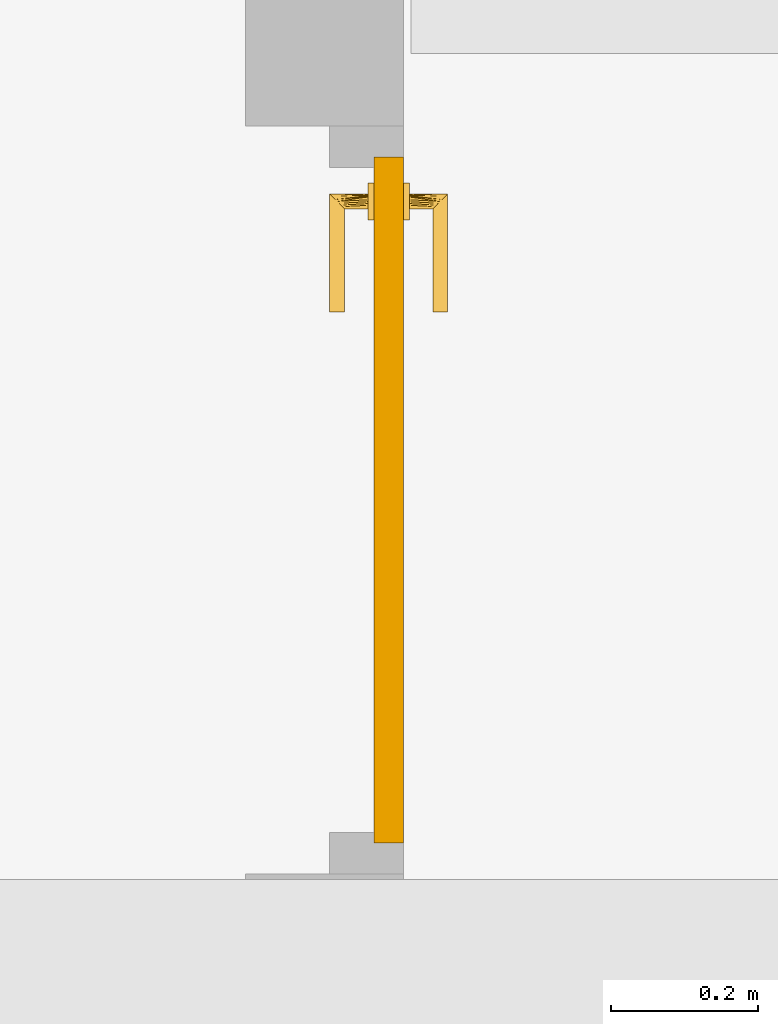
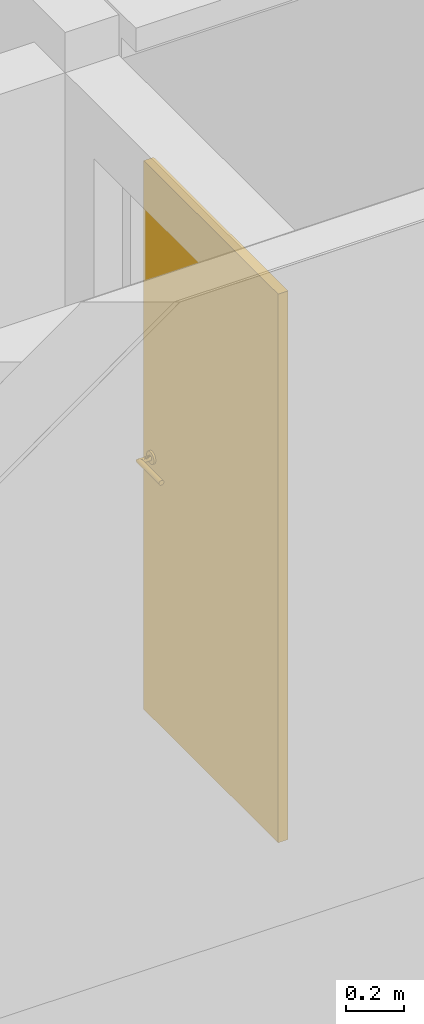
# One storey, part 91 of 117: 1 door.
"""IFC2X3 building model written with IfcOpenShell, lengths in millimetres."""

from ifc_helpers import new_model, entity, si_unit, converted_unit, derived_unit, money_unit, direction, frame, origin_with_axes, place, context, subcontext, project, spatial, faceted_brep, source, transform, mapped, material, type_object, type_shapes, element, save


model = new_model("IFC2X3")

# Units and contexts
model_context = context("Model", 3, precision=0.01, world=origin_with_axes(), true_north=direction((0.0, 1.0)))
body_context = subcontext(model_context, "Body", "Model", "MODEL_VIEW")
ifc_project = project(units=[si_unit("LENGTHUNIT", "METRE", prefix="MILLI"), si_unit("AREAUNIT", "SQUARE_METRE"), si_unit("VOLUMEUNIT", "CUBIC_METRE"), converted_unit("PLANEANGLEUNIT", "DEGREE", entity("IfcPlaneAngleMeasure", 0.0174532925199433), si_unit("PLANEANGLEUNIT", "RADIAN"), dimensions=[0, 0, 0, 0, 0, 0, 0]), money_unit("EUR"), converted_unit("TIMEUNIT", "Year", entity("IfcTimeMeasure", 31557600.0), si_unit("TIMEUNIT", "SECOND"), dimensions=[0, 0, 1, 0, 0, 0, 0]), si_unit("MASSUNIT", "GRAM", prefix="KILO"), si_unit("THERMODYNAMICTEMPERATUREUNIT", "DEGREE_CELSIUS"), si_unit("LUMINOUSINTENSITYUNIT", "LUMEN"), si_unit("ENERGYUNIT", "JOULE", prefix="MEGA"), derived_unit("THERMALCONDUCTANCEUNIT", [(si_unit("POWERUNIT", "WATT"), 1), (si_unit("LENGTHUNIT", "METRE"), -1), (si_unit("THERMODYNAMICTEMPERATUREUNIT", "KELVIN"), -1)]), derived_unit("SPECIFICHEATCAPACITYUNIT", [(si_unit("ENERGYUNIT", "JOULE"), 1), (si_unit("MASSUNIT", "GRAM", prefix="KILO"), -1), (si_unit("THERMODYNAMICTEMPERATUREUNIT", "KELVIN"), -1)]), derived_unit("MASSDENSITYUNIT", [(si_unit("MASSUNIT", "GRAM", prefix="KILO"), 1), (si_unit("VOLUMEUNIT", "CUBIC_METRE"), -1)])], contexts=[model_context])

# Site, building, storey
site_placement = place(None, origin_with_axes())
site = spatial("IfcSite", under=ifc_project, at=site_placement, Name="Site", CompositionType="ELEMENT")
building_placement = place(site_placement, origin_with_axes())
building = spatial("IfcBuilding", under=site, at=building_placement, Name="Naam gebouw", CompositionType="ELEMENT")
storey_placement = place(building_placement, frame((0.0, 0.0, 4150.0), z_axis=(0.0, 0.0, 1.0), x_axis=(1.0, 0.0, 0.0)))
storey = spatial("IfcBuildingStorey", under=building, at=storey_placement, Name="1e verdieping N", CompositionType="ELEMENT", Elevation=4150.0)

# Door
ifc_material = material(Name="<Unnamed>")
door_style = type_object("IfcDoorStyle", Name="NLRS_32_deur stomp dicht_WID:Deur", ConstructionType="NOTDEFINED", OperationType="NOTDEFINED", ParameterTakesPrecedence=False, Sizeable=False)
shared_shape = source(origin_with_axes(), body_context, "Body", "Brep", [
    faceted_brep([(417.5000000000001, -65.96445239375, 1078.34936490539), (407.58819045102, -65.96445239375, 1090.34074173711), (410.0000000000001, -65.96445239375, 1091.33974596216), (411.4704761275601, -65.96445239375, 1075.85185434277), (410.0000000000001, -74.00000000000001, 1091.33974596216), (407.58819045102, -74.00000000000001, 1090.34074173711), (422.6776695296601, -65.96445239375, 1082.32233047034), (411.4704761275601, -74.00000000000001, 1075.85185434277), (417.5000000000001, -74.00000000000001, 1078.34936490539), (405.0, -65.96445239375, 1090.0), (412.0710678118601, -74.00000000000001, 1092.92893218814), (412.0710678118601, -65.96445239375, 1092.92893218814), (405.0, -74.00000000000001, 1090.0), (422.6776695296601, -74.00000000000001, 1082.32233047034), (405.0, -74.00000000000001, 1075.0), (405.0, -65.96445239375, 1075.0), (413.66025403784, -65.96445239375, 1095.0), (413.66025403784, -74.00000000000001, 1095.0), (402.41180954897, -74.00000000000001, 1090.34074173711), (402.41180954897, -65.96445239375, 1090.34074173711), (426.6506350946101, -65.96445239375, 1087.5), (426.6506350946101, -74.00000000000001, 1087.5), (398.52952387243, -74.00000000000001, 1075.85185434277), (398.52952387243, -65.96445239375, 1075.85185434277), (414.65925826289, -74.00000000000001, 1097.41180954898), (414.65925826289, -65.96445239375, 1097.41180954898), (400.0, -65.96445239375, 1091.33974596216), (400.0, -74.00000000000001, 1091.33974596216), (429.14814565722, -74.00000000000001, 1093.52952387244), (429.14814565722, -65.96445239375, 1093.52952387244), (392.5, -74.00000000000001, 1078.34936490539), (392.5, -65.96445239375, 1078.34936490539), (415.0000000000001, -74.00000000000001, 1100.0), (415.0000000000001, -65.96445239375, 1100.0), (397.92893218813, -65.96445239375, 1092.92893218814), (397.92893218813, -74.00000000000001, 1092.92893218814), (430.0000000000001, -65.96445239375, 1100.0), (430.0000000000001, -74.00000000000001, 1100.0), (387.32233047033, -74.00000000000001, 1082.32233047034), (387.32233047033, -65.96445239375, 1082.32233047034), (414.65925826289, -74.00000000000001, 1102.58819045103), (414.65925826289, -65.96445239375, 1102.58819045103), (396.3397459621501, -65.96445239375, 1095.0), (396.3397459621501, -74.00000000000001, 1095.0), (429.14814565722, -65.96445239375, 1106.47047612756), (429.14814565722, -74.00000000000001, 1106.47047612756), (383.3493649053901, -74.00000000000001, 1087.5), (383.3493649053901, -65.96445239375, 1087.5), (413.66025403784, -74.00000000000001, 1105.0), (413.66025403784, -65.96445239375, 1105.0), (395.34074173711, -65.96445239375, 1097.41180954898), (395.34074173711, -74.00000000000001, 1097.41180954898), (426.6506350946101, -65.96445239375, 1112.5), (426.6506350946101, -74.00000000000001, 1112.5), (380.8518543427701, -74.00000000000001, 1093.52952387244), (380.8518543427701, -65.96445239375, 1093.52952387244), (412.0710678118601, -65.96445239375, 1107.07106781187), (412.0710678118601, -74.00000000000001, 1107.07106781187), (395.0, -65.96445239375, 1100.0), (395.0, -74.00000000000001, 1100.0), (422.6776695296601, -65.96445239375, 1117.67766952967), (422.6776695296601, -74.00000000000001, 1117.67766952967), (380.0000000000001, -74.00000000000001, 1100.0), (380.0000000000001, -65.96445239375, 1100.0), (410.0000000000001, -74.00000000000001, 1108.66025403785), (410.0000000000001, -65.96445239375, 1108.66025403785), (395.34074173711, -65.96445239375, 1102.58819045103), (395.34074173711, -74.00000000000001, 1102.58819045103), (417.5000000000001, -74.00000000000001, 1121.65063509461), (417.5000000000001, -65.96445239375, 1121.65063509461), (380.8518543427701, -74.00000000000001, 1106.47047612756), (380.8518543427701, -65.96445239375, 1106.47047612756), (407.58819045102, -74.00000000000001, 1109.65925826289), (407.58819045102, -65.96445239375, 1109.65925826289), (396.3397459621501, -65.96445239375, 1105.0), (396.3397459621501, -74.00000000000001, 1105.0), (411.4704761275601, -74.00000000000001, 1124.14814565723), (411.4704761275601, -65.96445239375, 1124.14814565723), (383.3493649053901, -74.00000000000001, 1112.5), (383.3493649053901, -65.96445239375, 1112.5), (405.0, -74.00000000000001, 1110.0), (405.0, -65.96445239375, 1110.0), (397.92893218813, -65.96445239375, 1107.07106781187), (397.92893218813, -74.00000000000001, 1107.07106781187), (405.0, -65.96445239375, 1125.0), (405.0, -74.00000000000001, 1125.0), (387.32233047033, -74.00000000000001, 1117.67766952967), (387.32233047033, -65.96445239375, 1117.67766952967), (402.41180954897, -74.00000000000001, 1109.65925826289), (402.41180954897, -65.96445239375, 1109.65925826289), (400.0, -65.96445239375, 1108.66025403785), (400.0, -74.00000000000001, 1108.66025403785), (398.52952387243, -65.96445239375, 1124.14814565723), (398.52952387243, -74.00000000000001, 1124.14814565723), (392.5, -74.00000000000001, 1121.65063509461), (392.5, -65.96445239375, 1121.65063509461)], [[[0, 1, 2]], [[0, 3, 1]], [[4, 2, 1, 5]], [[0, 2, 6]], [[7, 3, 0, 8]], [[9, 1, 3]], [[10, 11, 2, 4]], [[5, 1, 9, 12]], [[5, 8, 4]], [[11, 6, 2]], [[6, 13, 8, 0]], [[14, 15, 3, 7]], [[8, 5, 7]], [[15, 9, 3]], [[16, 11, 10, 17]], [[10, 4, 13]], [[18, 12, 9, 19]], [[12, 7, 5]], [[4, 8, 13]], [[11, 20, 6]], [[21, 13, 6, 20]], [[22, 23, 15, 14]], [[14, 7, 12]], [[9, 15, 19]], [[16, 20, 11]], [[17, 10, 21]], [[16, 17, 24, 25]], [[21, 10, 13]], [[12, 18, 14]], [[26, 27, 18, 19]], [[28, 21, 20, 29]], [[22, 30, 31, 23]], [[23, 19, 15]], [[22, 14, 18]], [[20, 16, 25]], [[28, 17, 21]], [[17, 28, 24]], [[25, 24, 32, 33]], [[34, 35, 27, 26]], [[27, 22, 18]], [[23, 26, 19]], [[20, 25, 29]], [[28, 29, 36, 37]], [[27, 30, 22]], [[30, 38, 39, 31]], [[26, 23, 31]], [[24, 28, 37]], [[37, 32, 24]], [[40, 41, 33, 32]], [[25, 33, 29]], [[34, 42, 43, 35]], [[30, 27, 35]], [[26, 31, 34]], [[36, 29, 33]], [[37, 36, 44, 45]], [[38, 30, 35]], [[39, 38, 46, 47]], [[39, 34, 31]], [[37, 45, 32]], [[48, 49, 41, 40]], [[36, 33, 41]], [[40, 32, 45]], [[34, 39, 42]], [[43, 42, 50, 51]], [[35, 43, 38]], [[41, 44, 36]], [[45, 44, 52, 53]], [[43, 46, 38]], [[54, 55, 47, 46]], [[42, 39, 47]], [[56, 49, 48, 57]], [[49, 44, 41]], [[53, 48, 40]], [[53, 40, 45]], [[42, 47, 50]], [[51, 50, 58, 59]], [[43, 51, 54]], [[44, 49, 52]], [[60, 61, 53, 52]], [[46, 43, 54]], [[62, 63, 55, 54]], [[50, 47, 55]], [[49, 56, 52]], [[48, 53, 57]], [[56, 57, 64, 65]], [[58, 50, 55]], [[66, 67, 59, 58]], [[51, 59, 62]], [[54, 51, 62]], [[68, 61, 60, 69]], [[57, 53, 61]], [[52, 56, 60]], [[70, 71, 63, 62]], [[63, 58, 55]], [[57, 61, 64]], [[65, 64, 72, 73]], [[56, 65, 60]], [[74, 75, 67, 66]], [[59, 67, 70]], [[66, 58, 63]], [[62, 59, 70]], [[68, 64, 61]], [[65, 69, 60]], [[76, 68, 69, 77]], [[70, 78, 79, 71]], [[71, 66, 63]], [[68, 72, 64]], [[72, 80, 81, 73]], [[73, 69, 65]], [[74, 82, 83, 75]], [[75, 78, 67]], [[74, 66, 71]], [[67, 78, 70]], [[68, 76, 72]], [[69, 73, 77]], [[76, 77, 84, 85]], [[78, 86, 87, 79]], [[79, 74, 71]], [[80, 72, 76]], [[88, 89, 81, 80]], [[81, 77, 73]], [[82, 74, 87]], [[83, 82, 90, 91]], [[83, 86, 75]], [[75, 86, 78]], [[84, 77, 81]], [[85, 84, 92, 93]], [[85, 80, 76]], [[87, 86, 94, 95]], [[74, 79, 87]], [[91, 90, 89, 88]], [[81, 89, 84]], [[80, 85, 88]], [[87, 95, 82]], [[95, 90, 82]], [[91, 94, 83]], [[86, 83, 94]], [[92, 84, 89]], [[93, 92, 95, 94]], [[93, 88, 85]], [[90, 92, 89]], [[93, 91, 88]], [[90, 95, 92]], [[91, 93, 94]]]),
    faceted_brep([(405.0, -74.00000000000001, 1090.0), (407.58819045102, -74.00000000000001, 1090.34074173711), (410.0000000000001, -74.00000000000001, 1091.33974596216), (412.0710678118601, -74.00000000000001, 1092.92893218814), (413.66025403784, -74.00000000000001, 1095.0), (414.65925826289, -74.00000000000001, 1097.41180954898), (415.0000000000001, -74.00000000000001, 1100.0), (414.65925826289, -74.00000000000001, 1102.58819045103), (413.66025403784, -74.00000000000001, 1105.0), (412.0710678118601, -74.00000000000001, 1107.07106781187), (410.0000000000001, -74.00000000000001, 1108.66025403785), (407.58819045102, -74.00000000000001, 1109.65925826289), (405.0, -74.00000000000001, 1110.0), (402.41180954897, -74.00000000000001, 1109.65925826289), (400.0, -74.00000000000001, 1108.66025403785), (397.92893218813, -74.00000000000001, 1107.07106781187), (396.3397459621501, -74.00000000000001, 1105.0), (395.34074173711, -74.00000000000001, 1102.58819045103), (395.0, -74.00000000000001, 1100.0), (395.34074173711, -74.00000000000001, 1097.41180954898), (396.3397459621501, -74.00000000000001, 1095.0), (397.92893218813, -74.00000000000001, 1092.92893218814), (400.0, -74.00000000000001, 1091.33974596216), (402.41180954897, -74.00000000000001, 1090.34074173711), (402.41180954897, -26.58819045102, 1090.34074173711), (405.0, -24.0, 1090.0), (407.58819045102, -21.41180954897, 1090.34074173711), (412.0710678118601, -16.92893218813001, 1092.92893218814), (414.65925826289, -14.34074173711, 1097.41180954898), (415.0000000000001, -14.0, 1100.0), (414.65925826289, -14.34074173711, 1102.58819045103), (412.0710678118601, -16.92893218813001, 1107.07106781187), (407.58819045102, -21.41180954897, 1109.65925826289), (405.0, -24.0, 1110.0), (402.41180954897, -26.58819045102, 1109.65925826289), (400.0, -29.0, 1108.66025403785), (397.92893218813, -31.07106781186, 1107.07106781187), (396.3397459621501, -32.66025403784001, 1105.0), (395.34074173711, -33.65925826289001, 1102.58819045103), (395.0, -34.0, 1100.0), (395.34074173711, -33.65925826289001, 1097.41180954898), (396.3397459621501, -32.66025403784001, 1095.0), (397.92893218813, -31.07106781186, 1092.92893218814), (400.0, -29.0, 1091.33974596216), (410.0000000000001, -19.0, 1091.33974596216), (413.66025403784, -15.33974596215, 1095.0), (255.0, -14.34074173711, 1097.41180954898), (255.0, -14.0, 1100.0), (255.0, -14.34074173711, 1102.58819045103), (413.66025403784, -15.33974596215, 1105.0), (410.0000000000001, -19.0, 1108.66025403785), (255.0, -32.66025403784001, 1105.0), (255.0, -33.65925826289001, 1102.58819045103), (255.0, -34.0, 1100.0), (255.0, -33.65925826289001, 1097.41180954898), (255.0, -32.66025403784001, 1095.0), (255.0, -29.0, 1091.33974596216), (255.0, -26.58819045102, 1090.34074173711), (255.0, -24.0, 1090.0), (255.0, -21.41180954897, 1090.34074173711), (255.0, -19.0, 1091.33974596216), (255.0, -16.92893218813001, 1092.92893218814), (255.0, -15.33974596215, 1095.0), (255.0, -31.07106781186, 1092.92893218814), (255.0, -31.07106781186, 1107.07106781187), (255.0, -29.0, 1108.66025403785), (255.0, -26.58819045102, 1109.65925826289), (255.0, -24.0, 1110.0), (255.0, -21.41180954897, 1109.65925826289), (255.0, -19.0, 1108.66025403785), (255.0, -16.92893218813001, 1107.07106781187), (255.0, -15.33974596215, 1105.0)], [[[0, 1, 2, 3, 4, 5, 6, 7, 8, 9, 10, 11, 12, 13, 14, 15, 16, 17, 18, 19, 20, 21, 22, 23]], [[1, 0, 24]], [[2, 1, 25]], [[25, 3, 2]], [[26, 4, 3]], [[5, 4, 27]], [[28, 29, 6, 5]], [[29, 30, 7, 6]], [[31, 8, 7]], [[8, 32, 9]], [[9, 33, 10]], [[33, 11, 10]], [[11, 34, 12]], [[12, 35, 13]], [[14, 13, 36]], [[37, 15, 14]], [[15, 37, 16]], [[16, 37, 38, 17]], [[18, 17, 38, 39]], [[19, 18, 39, 40]], [[20, 19, 40, 41]], [[20, 41, 21]], [[41, 22, 21]], [[23, 22, 42]], [[43, 0, 23]], [[0, 43, 24]], [[24, 25, 1]], [[25, 26, 3]], [[26, 44, 4]], [[44, 27, 4]], [[5, 27, 45]], [[28, 46, 47, 29]], [[28, 5, 45]], [[30, 29, 47, 48]], [[30, 49, 7]], [[50, 8, 31]], [[7, 49, 31]], [[32, 8, 50]], [[33, 9, 32]], [[11, 33, 34]], [[34, 35, 12]], [[13, 35, 36]], [[14, 36, 37]], [[38, 37, 51, 52]], [[39, 38, 52, 53]], [[39, 53, 54, 40]], [[40, 54, 55, 41]], [[22, 41, 42]], [[23, 42, 43]], [[43, 56, 57, 24]], [[58, 25, 24, 57]], [[26, 25, 58, 59]], [[26, 59, 60, 44]], [[44, 60, 61, 27]], [[27, 61, 62, 45]], [[45, 62, 46, 28]], [[60, 59, 58, 57, 56, 63, 55, 54, 53, 52, 51, 64, 65, 66, 67, 68, 69, 70, 71, 48, 47, 46, 62, 61]], [[49, 30, 48, 71]], [[50, 31, 70, 69]], [[31, 49, 71, 70]], [[32, 50, 69, 68]], [[68, 67, 33, 32]], [[34, 33, 67, 66]], [[35, 34, 66, 65]], [[36, 35, 65, 64]], [[37, 36, 64, 51]], [[41, 55, 63, 42]], [[42, 63, 56, 43]]]),
    faceted_brep([(410.0000000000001, -122.03554760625, 1091.33974596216), (407.58819045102, -122.03554760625, 1090.34074173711), (417.4999999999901, -122.03554760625, 1078.34936490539), (410.0000000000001, -114.0, 1091.33974596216), (407.58819045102, -114.0, 1090.34074173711), (411.4704761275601, -122.03554760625, 1075.85185434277), (422.6776695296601, -122.03554760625, 1082.32233047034), (412.0710678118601, -122.03554760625, 1092.92893218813), (412.0710678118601, -114.0, 1092.92893218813), (417.4999999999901, -114.0, 1078.34936490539), (405.0, -114.0, 1090.0), (405.0, -122.03554760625, 1090.0), (411.4704761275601, -114.0, 1075.85185434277), (422.6776695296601, -114.0, 1082.32233047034), (413.66025403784, -114.0, 1095.0), (413.66025403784, -122.03554760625, 1095.0), (402.41180954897, -122.03554760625, 1090.34074173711), (402.41180954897, -114.0, 1090.34074173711), (405.0, -122.03554760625, 1075.0), (405.0, -114.0, 1075.0), (426.6506350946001, -122.03554760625, 1087.5), (426.6506350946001, -114.0, 1087.5), (414.65925826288, -122.03554760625, 1097.41180954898), (414.65925826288, -114.0, 1097.41180954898), (400.0, -114.0, 1091.33974596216), (400.0, -122.03554760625, 1091.33974596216), (398.52952387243, -122.03554760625, 1075.85185434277), (398.52952387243, -114.0, 1075.85185434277), (429.14814565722, -122.03554760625, 1093.52952387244), (429.14814565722, -114.0, 1093.52952387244), (415.0000000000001, -122.03554760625, 1100.0), (415.0000000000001, -114.0, 1100.0), (397.92893218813, -114.0, 1092.92893218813), (397.92893218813, -122.03554760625, 1092.92893218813), (392.4999999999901, -122.03554760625, 1078.34936490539), (392.4999999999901, -114.0, 1078.34936490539), (430.0000000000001, -122.03554760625, 1100.0), (430.0000000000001, -114.0, 1100.0), (414.65925826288, -122.03554760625, 1102.58819045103), (414.65925826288, -114.0, 1102.58819045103), (396.3397459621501, -114.0, 1095.0), (396.3397459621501, -122.03554760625, 1095.0), (387.32233047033, -122.03554760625, 1082.32233047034), (387.32233047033, -114.0, 1082.32233047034), (429.14814565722, -114.0, 1106.47047612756), (429.14814565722, -122.03554760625, 1106.47047612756), (413.66025403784, -122.03554760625, 1105.0), (413.66025403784, -114.0, 1105.0), (395.3407417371, -122.03554760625, 1097.41180954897), (395.3407417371, -114.0, 1097.41180954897), (383.3493649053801, -114.0, 1087.5), (383.3493649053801, -122.03554760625, 1087.5), (426.6506350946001, -114.0, 1112.5), (426.6506350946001, -122.03554760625, 1112.5), (412.0710678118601, -114.0, 1107.07106781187), (412.0710678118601, -122.03554760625, 1107.07106781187), (380.8518543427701, -114.0, 1093.52952387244), (395.0, -122.03554760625, 1100.0), (395.0, -114.0, 1100.0), (380.8518543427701, -122.03554760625, 1093.52952387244), (422.6776695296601, -114.0, 1117.67766952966), (422.6776695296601, -122.03554760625, 1117.67766952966), (410.0000000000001, -122.03554760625, 1108.66025403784), (410.0000000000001, -114.0, 1108.66025403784), (380.0000000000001, -114.0, 1100.0), (395.3407417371, -114.0, 1102.58819045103), (395.3407417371, -122.03554760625, 1102.58819045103), (380.0000000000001, -122.03554760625, 1100.0), (417.4999999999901, -122.03554760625, 1121.65063509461), (417.4999999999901, -114.0, 1121.65063509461), (407.58819045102, -122.03554760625, 1109.65925826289), (407.58819045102, -114.0, 1109.65925826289), (380.8518543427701, -114.0, 1106.47047612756), (396.3397459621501, -114.0, 1105.0), (396.3397459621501, -122.03554760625, 1105.0), (380.8518543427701, -122.03554760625, 1106.47047612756), (411.4704761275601, -122.03554760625, 1124.14814565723), (411.4704761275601, -114.0, 1124.14814565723), (405.0, -122.03554760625, 1110.0), (405.0, -114.0, 1110.0), (383.3493649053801, -114.0, 1112.5), (397.92893218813, -114.0, 1107.07106781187), (397.92893218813, -122.03554760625, 1107.07106781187), (383.3493649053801, -122.03554760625, 1112.5), (405.0, -122.03554760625, 1125.0), (405.0, -114.0, 1125.0), (402.41180954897, -122.03554760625, 1109.65925826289), (402.41180954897, -114.0, 1109.65925826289), (387.32233047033, -114.0, 1117.67766952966), (400.0, -122.03554760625, 1108.66025403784), (400.0, -114.0, 1108.66025403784), (387.32233047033, -122.03554760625, 1117.67766952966), (398.52952387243, -114.0, 1124.14814565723), (398.52952387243, -122.03554760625, 1124.14814565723), (392.4999999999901, -114.0, 1121.65063509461), (392.4999999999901, -122.03554760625, 1121.65063509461)], [[[0, 1, 2]], [[1, 0, 3, 4]], [[1, 5, 2]], [[6, 0, 2]], [[0, 7, 8, 3]], [[3, 9, 4]], [[10, 11, 1, 4]], [[5, 1, 11]], [[9, 2, 5, 12]], [[0, 6, 7]], [[9, 13, 6, 2]], [[14, 8, 7, 15]], [[13, 3, 8]], [[13, 9, 3]], [[12, 4, 9]], [[16, 11, 10, 17]], [[4, 12, 10]], [[5, 11, 18]], [[12, 5, 18, 19]], [[6, 20, 7]], [[20, 6, 13, 21]], [[21, 8, 14]], [[7, 20, 15]], [[22, 23, 14, 15]], [[13, 8, 21]], [[16, 18, 11]], [[19, 17, 10]], [[16, 17, 24, 25]], [[10, 12, 19]], [[18, 26, 27, 19]], [[28, 20, 21, 29]], [[21, 14, 29]], [[22, 15, 20]], [[30, 31, 23, 22]], [[23, 29, 14]], [[18, 16, 26]], [[17, 19, 27]], [[17, 27, 24]], [[25, 24, 32, 33]], [[16, 25, 26]], [[26, 34, 35, 27]], [[28, 22, 20]], [[36, 28, 29, 37]], [[30, 38, 39, 31]], [[23, 31, 37]], [[28, 30, 22]], [[37, 29, 23]], [[27, 35, 24]], [[32, 24, 35]], [[32, 40, 41, 33]], [[33, 34, 25]], [[34, 26, 25]], [[34, 42, 43, 35]], [[30, 28, 36]], [[44, 45, 36, 37]], [[38, 30, 36]], [[38, 46, 47, 39]], [[44, 31, 39]], [[31, 44, 37]], [[32, 35, 43]], [[43, 40, 32]], [[48, 41, 40, 49]], [[41, 42, 33]], [[34, 33, 42]], [[50, 43, 42, 51]], [[52, 53, 45, 44]], [[36, 45, 38]], [[38, 45, 46]], [[54, 47, 46, 55]], [[39, 47, 52]], [[44, 39, 52]], [[43, 50, 40]], [[48, 51, 41]], [[56, 49, 40]], [[57, 48, 49, 58]], [[51, 42, 41]], [[50, 51, 59, 56]], [[52, 60, 61, 53]], [[53, 46, 45]], [[54, 52, 47]], [[53, 55, 46]], [[62, 63, 54, 55]], [[56, 40, 50]], [[59, 51, 48]], [[64, 49, 56]], [[59, 48, 57]], [[64, 58, 49]], [[57, 58, 65, 66]], [[56, 59, 67, 64]], [[60, 52, 54]], [[68, 61, 60, 69]], [[61, 55, 53]], [[70, 71, 63, 62]], [[63, 60, 54]], [[61, 62, 55]], [[59, 57, 67]], [[72, 58, 64]], [[72, 65, 58]], [[66, 65, 73, 74]], [[67, 57, 66]], [[67, 75, 72, 64]], [[61, 68, 62]], [[60, 63, 69]], [[76, 68, 69, 77]], [[70, 78, 79, 71]], [[63, 71, 69]], [[62, 68, 70]], [[72, 80, 65]], [[65, 80, 73]], [[73, 81, 82, 74]], [[75, 66, 74]], [[67, 66, 75]], [[75, 83, 80, 72]], [[76, 70, 68]], [[71, 77, 69]], [[84, 76, 77, 85]], [[70, 76, 78]], [[79, 78, 86, 87]], [[77, 71, 79]], [[80, 88, 73]], [[73, 88, 81]], [[89, 82, 81, 90]], [[91, 74, 82]], [[75, 74, 83]], [[83, 91, 88, 80]], [[78, 76, 84]], [[77, 79, 85]], [[92, 93, 84, 85]], [[84, 86, 78]], [[86, 89, 90, 87]], [[87, 85, 79]], [[94, 81, 88]], [[82, 89, 95]], [[81, 94, 90]], [[91, 83, 74]], [[82, 95, 91]], [[94, 88, 91, 95]], [[94, 95, 93, 92]], [[86, 84, 93]], [[85, 87, 92]], [[86, 93, 89]], [[87, 90, 92]], [[93, 95, 89]], [[94, 92, 90]]]),
    faceted_brep([(410.0000000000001, -114.0, 1091.33974596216), (407.58819045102, -114.0, 1090.34074173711), (405.0, -114.0, 1090.0), (402.41180954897, -114.0, 1090.34074173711), (400.0, -114.0, 1091.33974596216), (397.92893218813, -114.0, 1092.92893218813), (396.3397459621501, -114.0, 1095.0), (395.3407417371, -114.0, 1097.41180954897), (395.0, -114.0, 1100.0), (395.3407417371, -114.0, 1102.58819045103), (396.3397459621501, -114.0, 1105.0), (397.92893218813, -114.0, 1107.07106781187), (400.0, -114.0, 1108.66025403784), (402.41180954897, -114.0, 1109.65925826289), (405.0, -114.0, 1110.0), (407.58819045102, -114.0, 1109.65925826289), (410.0000000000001, -114.0, 1108.66025403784), (412.0710678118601, -114.0, 1107.07106781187), (413.66025403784, -114.0, 1105.0), (414.65925826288, -114.0, 1102.58819045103), (415.0000000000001, -114.0, 1100.0), (414.65925826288, -114.0, 1097.41180954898), (413.66025403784, -114.0, 1095.0), (412.0710678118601, -114.0, 1092.92893218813), (405.0, -164.0, 1090.0), (402.41180954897, -161.41180954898, 1090.34074173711), (400.0, -159.0, 1091.33974596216), (397.92893218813, -156.92893218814, 1092.92893218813), (396.3397459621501, -155.33974596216, 1095.0), (395.3407417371, -154.3407417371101, 1097.41180954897), (395.0, -154.0, 1100.0), (395.3407417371, -154.3407417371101, 1102.58819045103), (396.3397459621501, -155.33974596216, 1105.0), (397.92893218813, -156.92893218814, 1107.07106781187), (400.0, -159.0, 1108.66025403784), (402.41180954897, -161.41180954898, 1109.65925826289), (405.0, -164.0, 1110.0), (407.58819045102, -166.58819045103, 1109.65925826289), (412.0710678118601, -171.07106781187, 1107.07106781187), (414.65925826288, -173.65925826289, 1102.58819045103), (415.0000000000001, -174.0, 1100.0), (414.65925826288, -173.65925826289, 1097.41180954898), (412.0710678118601, -171.07106781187, 1092.92893218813), (407.58819045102, -166.58819045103, 1090.34074173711), (255.0, -155.33974596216, 1095.0), (255.0, -154.3407417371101, 1097.41180954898), (255.0, -154.0, 1100.0), (255.0, -154.3407417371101, 1102.58819045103), (255.0, -155.33974596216, 1105.0), (410.0000000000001, -169.0, 1108.66025403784), (413.66025403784, -172.66025403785, 1105.0), (255.0, -173.65925826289, 1102.58819045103), (255.0, -174.0, 1100.0), (255.0, -173.65925826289, 1097.41180954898), (413.66025403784, -172.66025403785, 1095.0), (410.0000000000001, -169.0, 1091.33974596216), (255.0, -161.41180954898, 1090.34074173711), (255.0, -164.0, 1090.0), (255.0, -159.0, 1091.33974596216), (255.0, -156.92893218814, 1092.92893218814), (255.0, -166.58819045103, 1090.34074173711), (255.0, -169.0, 1091.33974596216), (255.0, -171.07106781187, 1092.92893218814), (255.0, -172.66025403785, 1095.0), (255.0, -172.66025403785, 1105.0), (255.0, -171.07106781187, 1107.07106781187), (255.0, -169.0, 1108.66025403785), (255.0, -166.58819045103, 1109.65925826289), (255.0, -164.0, 1110.0), (255.0, -161.41180954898, 1109.65925826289), (255.0, -159.0, 1108.66025403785), (255.0, -156.92893218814, 1107.07106781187)], [[[0, 1, 2, 3, 4, 5, 6, 7, 8, 9, 10, 11, 12, 13, 14, 15, 16, 17, 18, 19, 20, 21, 22, 23]], [[24, 1, 0]], [[25, 2, 1]], [[3, 2, 26]], [[27, 4, 3]], [[5, 4, 28]], [[5, 28, 6]], [[28, 29, 7, 6]], [[29, 30, 8, 7]], [[30, 31, 9, 8]], [[31, 32, 10, 9]], [[10, 32, 11]], [[12, 11, 32]], [[33, 13, 12]], [[13, 34, 14]], [[14, 35, 15]], [[16, 15, 36]], [[16, 36, 17]], [[17, 37, 18]], [[19, 18, 38]], [[20, 19, 39, 40]], [[20, 40, 41, 21]], [[42, 22, 21]], [[23, 22, 43]], [[0, 23, 24]], [[1, 24, 25]], [[25, 26, 2]], [[26, 27, 3]], [[27, 28, 4]], [[44, 45, 29, 28]], [[45, 46, 30, 29]], [[46, 47, 31, 30]], [[47, 48, 32, 31]], [[32, 33, 12]], [[33, 34, 13]], [[14, 34, 35]], [[35, 36, 15]], [[37, 17, 36]], [[49, 18, 37]], [[38, 18, 49]], [[38, 50, 19]], [[19, 50, 39]], [[51, 52, 40, 39]], [[52, 53, 41, 40]], [[54, 21, 41]], [[22, 42, 55]], [[54, 42, 21]], [[22, 55, 43]], [[23, 43, 24]], [[56, 25, 24, 57]], [[56, 58, 26, 25]], [[58, 59, 27, 26]], [[59, 44, 28, 27]], [[57, 60, 61, 62, 63, 53, 52, 51, 64, 65, 66, 67, 68, 69, 70, 71, 48, 47, 46, 45, 44, 59, 58, 56]], [[48, 71, 33, 32]], [[71, 70, 34, 33]], [[70, 69, 35, 34]], [[68, 36, 35, 69]], [[37, 36, 68, 67]], [[67, 66, 49, 37]], [[66, 65, 38, 49]], [[65, 64, 50, 38]], [[64, 51, 39, 50]], [[53, 63, 54, 41]], [[62, 61, 55, 42]], [[63, 62, 42, 54]], [[61, 60, 43, 55]], [[60, 57, 24, 43]]]),
    faceted_brep([(465.0, -114.0, 0.0), (-465.0, -114.0, 0.0), (-465.0, -74.00000000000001, 0.0), (465.0, -74.00000000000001, 0.0), (-465.0, -114.0, 2315.0), (465.0, -114.0, 2315.0), (-465.0, -74.00000000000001, 2315.0), (465.0, -74.00000000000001, 2315.0)], [[[0, 1, 2, 3]], [[4, 1, 0, 5]], [[6, 2, 1, 4]], [[7, 3, 2, 6]], [[5, 0, 3, 7]], [[5, 7, 6, 4]]]),
])
type_shapes(door_style, [shared_shape])
door_placement = place(storey_placement, frame((33599.00000004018, 33440.31796988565, -1000.0), z_axis=(0.0, 0.0, 1.0), x_axis=(0.0, 1.0, 0.0)))
element("IfcDoor", 1, at=door_placement, inside=storey, type_object=door_style, material=ifc_material, Name="NLRS_32_deur stomp dicht_WID:Deur", ObjectType="DOOR", context=body_context, shape_type="MappedRepresentation", body=[
    mapped(shared_shape, transform((0.0, 0.0, 0.0))),
])

save(model, "model.ifc")
